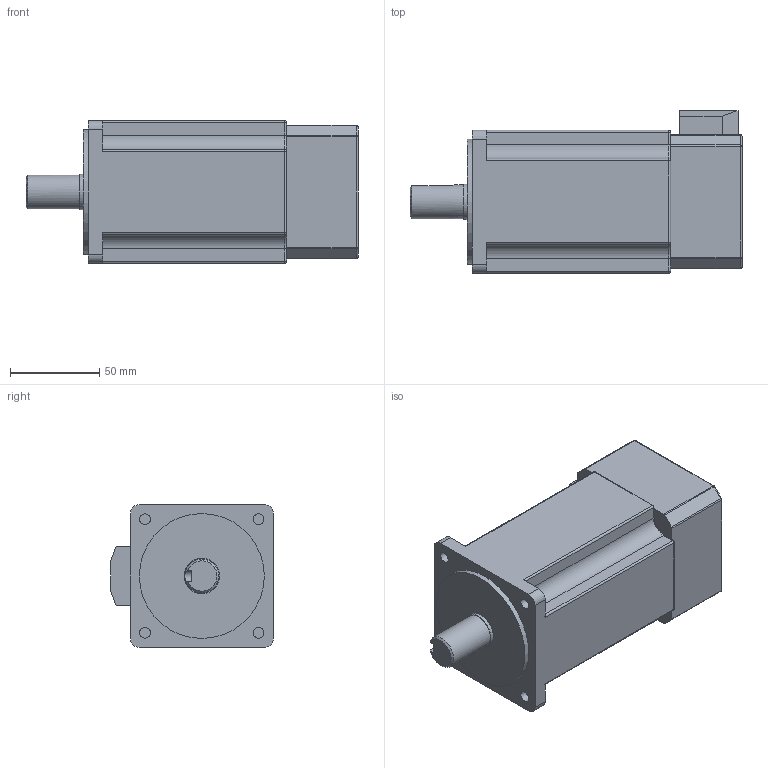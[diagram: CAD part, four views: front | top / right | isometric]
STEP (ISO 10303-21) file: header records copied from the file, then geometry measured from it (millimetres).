
FILE_DESCRIPTION(('STEP AP214'), '1');
FILE_NAME('80ST-M03520-栫謼鍱睯蜬蠈錪', '', ('UNSPECIFIED'), ('UNSPECIFIED'), 'ASCON STEP Converter 1.3', 'ASCON Math Kernel', '');
FILE_SCHEMA(('AUTOMOTIVE_DESIGN { 1 0 10303 214 3 1 1}'));
Length unit declared in the file: millimetre
Products named in the file (1): 80ST-M03520
Bounding box: 186 x 91 x 80 mm (x, y, z)
Volume: 861985.5 mm3; surface area: 63602.6 mm2
Topology: 1 solids, 1 shells, 122 faces, 300 edges, 168 vertices
Faces by surface type: cylinder 52, plane 49, sphere 16, torus 4, cone 1
Full cylindrical faces by diameter (mm): 6 x4, 19 x1, 19.9 x1, 70 x1
Entity records: 4525 total; most frequent: CARTESIAN_POINT 673, DIRECTION 629, ORIENTED_EDGE 554, EDGE_CURVE 277, AXIS2_PLACEMENT_3D 232, VERTEX_POINT 168, LINE 165, VECTOR 165
